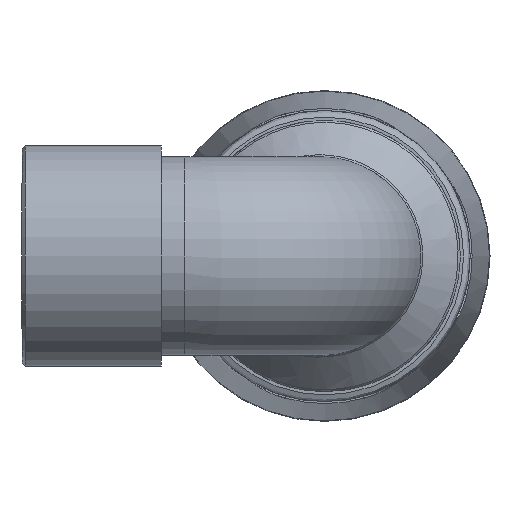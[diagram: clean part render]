
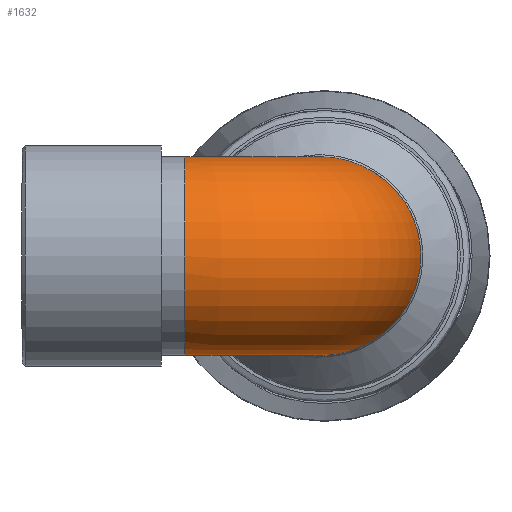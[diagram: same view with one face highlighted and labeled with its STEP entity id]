
A CAD part, left-side view. The second image highlights one B-rep face of the part: STEP entity #1632.
In plain terms, the highlighted toroidal (fillet/blend) face has major radius 19.868 mm and minor radius 14.108 mm.
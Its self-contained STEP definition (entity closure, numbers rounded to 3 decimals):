
#17=TOROIDAL_SURFACE('',#1782,19.868,14.108);
#186=B_SPLINE_CURVE_WITH_KNOTS('',3,(#2795,#2796,#2797,#2798,#2799,#2800,
#2801,#2802,#2803,#2804,#2805,#2806,#2807,#2808,#2809,#2810,#2811,#2812,
#2813,#2814),.UNSPECIFIED.,.T.,.F.,(4,1,1,1,1,1,1,1,1,1,1,1,1,1,1,1,1,4),
(-3.142,-2.917,-2.693,-2.244,
-1.795,-1.346,-0.748,-0.449,
0.15,0.449,0.898,1.346,
1.795,2.244,2.468,2.693,2.917,
3.142),.UNSPECIFIED.);
#365=FACE_BOUND('',#518,.T.);
#395=FACE_OUTER_BOUND('',#517,.T.);
#517=EDGE_LOOP('',(#1186));
#518=EDGE_LOOP('',(#1187));
#664=CIRCLE('',#1777,14.108);
#757=VERTEX_POINT('',#2793);
#761=VERTEX_POINT('',#2825);
#921=EDGE_CURVE('',#757,#757,#186,.T.);
#925=EDGE_CURVE('',#761,#761,#664,.T.);
#1186=ORIENTED_EDGE('',*,*,#921,.F.);
#1187=ORIENTED_EDGE('',*,*,#925,.T.);
#1632=ADVANCED_FACE('',(#395,#365),#17,.T.);
#1777=AXIS2_PLACEMENT_3D('',#2826,#2030,#2031);
#1782=AXIS2_PLACEMENT_3D('',#2834,#2040,#2041);
#2030=DIRECTION('center_axis',(0.,-1.,0.));
#2031=DIRECTION('ref_axis',(-1.,0.,0.));
#2040=DIRECTION('center_axis',(0.,0.,1.));
#2041=DIRECTION('ref_axis',(1.,0.,0.));
#2793=CARTESIAN_POINT('',(14.716,17.293,0.));
#2795=CARTESIAN_POINT('Ctrl Pts',(14.717,17.294,0.));
#2796=CARTESIAN_POINT('Ctrl Pts',(14.717,17.294,1.089));
#2797=CARTESIAN_POINT('Ctrl Pts',(14.628,16.866,3.268));
#2798=CARTESIAN_POINT('Ctrl Pts',(14.35,14.729,7.21));
#2799=CARTESIAN_POINT('Ctrl Pts',(14.238,10.708,11.23));
#2800=CARTESIAN_POINT('Ctrl Pts',(14.29,4.626,14.095));
#2801=CARTESIAN_POINT('Ctrl Pts',(14.348,-2.856,14.368));
#2802=CARTESIAN_POINT('Ctrl Pts',(14.383,-8.915,11.191));
#2803=CARTESIAN_POINT('Ctrl Pts',(14.402,-13.234,5.21));
#2804=CARTESIAN_POINT('Ctrl Pts',(14.407,-14.185,-0.803));
#2805=CARTESIAN_POINT('Ctrl Pts',(14.398,-12.133,-7.111));
#2806=CARTESIAN_POINT('Ctrl Pts',(14.38,-8.277,-11.666));
#2807=CARTESIAN_POINT('Ctrl Pts',(14.342,-2.099,-14.333));
#2808=CARTESIAN_POINT('Ctrl Pts',(14.289,4.618,-14.098));
#2809=CARTESIAN_POINT('Ctrl Pts',(14.249,9.703,-11.708));
#2810=CARTESIAN_POINT('Ctrl Pts',(14.302,13.111,-8.816));
#2811=CARTESIAN_POINT('Ctrl Pts',(14.422,15.269,-6.226));
#2812=CARTESIAN_POINT('Ctrl Pts',(14.628,16.865,-3.267));
#2813=CARTESIAN_POINT('Ctrl Pts',(14.717,17.294,-1.089));
#2814=CARTESIAN_POINT('Ctrl Pts',(14.717,17.294,0.));
#2825=CARTESIAN_POINT('',(14.108,19.868,0.));
#2826=CARTESIAN_POINT('Origin',(0.,19.868,0.));
#2834=CARTESIAN_POINT('Origin',(19.868,19.868,0.));
